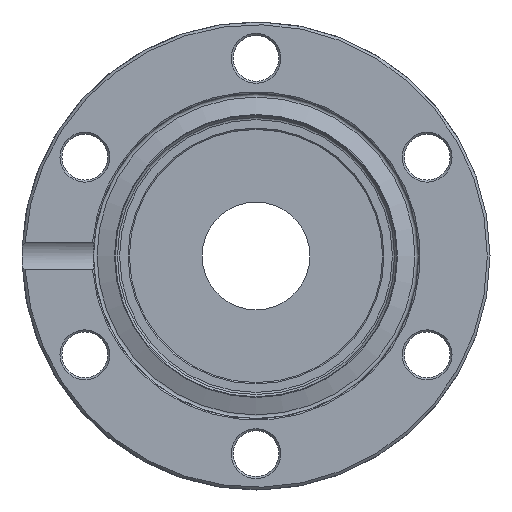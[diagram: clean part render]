
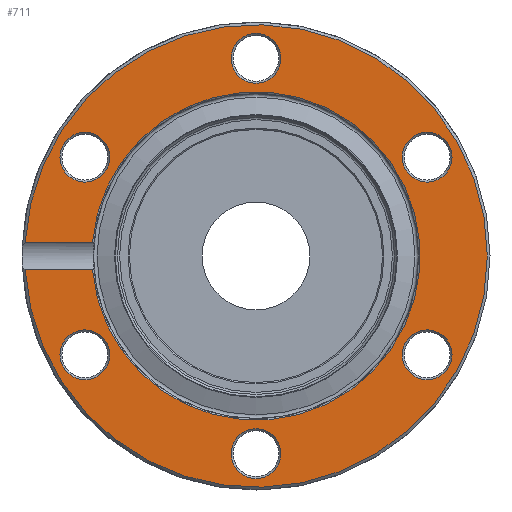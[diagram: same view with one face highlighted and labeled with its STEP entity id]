
A CAD part, left-side view. The second image highlights one B-rep face of the part: STEP entity #711.
In plain terms, the highlighted planar face has unit normal (-1, 0, 0).
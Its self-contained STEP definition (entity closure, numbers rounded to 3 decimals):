
#450=CARTESIAN_POINT('',(0.,24.29,-2.04));
#451=VERTEX_POINT('',#450);
#461=CARTESIAN_POINT('',(0.,24.29,2.04));
#462=VERTEX_POINT('',#461);
#463=CARTESIAN_POINT('',(0.,0.,0.0));
#464=DIRECTION('',(-1.0,0.0,0.0));
#465=DIRECTION('',(0.0,-1.0,0.0));
#466=AXIS2_PLACEMENT_3D('',#463,#464,#465);
#467=CIRCLE('',#466,24.375);
#468=EDGE_CURVE('',#451,#462,#467,.T.);
#528=CARTESIAN_POINT('',(0.,34.289,-2.04));
#529=VERTEX_POINT('',#528);
#548=CARTESIAN_POINT('',(0.,34.289,2.04));
#549=VERTEX_POINT('',#548);
#557=CARTESIAN_POINT('',(0.,0.,0.0));
#558=DIRECTION('',(1.0,0.0,0.0));
#559=DIRECTION('',(0.0,-1.0,0.0));
#560=AXIS2_PLACEMENT_3D('',#557,#558,#559);
#561=CIRCLE('',#560,34.35);
#562=EDGE_CURVE('',#549,#529,#561,.T.);
#615=CARTESIAN_POINT('',(0.,34.289,2.04));
#616=DIRECTION('',(0.0,-1.0,0.0));
#617=VECTOR('',#616,10.);
#618=LINE('',#615,#617);
#619=EDGE_CURVE('',#549,#462,#618,.T.);
#625=CARTESIAN_POINT('',(0.,24.29,-2.04));
#626=DIRECTION('',(0.0,1.0,0.0));
#627=VECTOR('',#626,10.);
#628=LINE('',#625,#627);
#629=EDGE_CURVE('',#451,#529,#628,.T.);
#634=CARTESIAN_POINT('',(0.0,29.462,0.0));
#635=DIRECTION('',(-1.0,0.0,0.0));
#636=DIRECTION('',(0.0,0.0,1.0));
#637=AXIS2_PLACEMENT_3D('',#634,#635,#636);
#638=PLANE('',#637);
#639=ORIENTED_EDGE('',*,*,#468,.F.);
#640=ORIENTED_EDGE('',*,*,#629,.T.);
#641=ORIENTED_EDGE('',*,*,#562,.F.);
#642=ORIENTED_EDGE('',*,*,#619,.T.);
#643=EDGE_LOOP('',(#639,#640,#641,#642));
#644=FACE_OUTER_BOUND('',#643,.T.);
#645=CARTESIAN_POINT('',(0.,-28.622,12.825));
#646=VERTEX_POINT('',#645);
#647=CARTESIAN_POINT('',(0.,-25.418,14.675));
#648=DIRECTION('',(-1.0,0.,0.));
#649=DIRECTION('',(0.,0.866,0.5));
#650=AXIS2_PLACEMENT_3D('',#647,#648,#649);
#651=CIRCLE('',#650,3.7);
#652=EDGE_CURVE('',#646,#646,#651,.T.);
#653=ORIENTED_EDGE('',*,*,#652,.F.);
#654=EDGE_LOOP('',(#653));
#655=FACE_BOUND('',#654,.T.);
#656=CARTESIAN_POINT('',(0.,25.418,18.375));
#657=VERTEX_POINT('',#656);
#658=CARTESIAN_POINT('',(0.,25.418,14.675));
#659=DIRECTION('',(-1.0,0.0,0.0));
#660=DIRECTION('',(0.0,0.0,-1.0));
#661=AXIS2_PLACEMENT_3D('',#658,#659,#660);
#662=CIRCLE('',#661,3.7);
#663=EDGE_CURVE('',#657,#657,#662,.T.);
#664=ORIENTED_EDGE('',*,*,#663,.F.);
#665=EDGE_LOOP('',(#664));
#666=FACE_BOUND('',#665,.T.);
#667=CARTESIAN_POINT('',(0.,-3.204,31.2));
#668=VERTEX_POINT('',#667);
#669=CARTESIAN_POINT('',(0.,0.,29.35));
#670=DIRECTION('',(-1.,0.,0.));
#671=DIRECTION('',(0.,0.866,-0.5));
#672=AXIS2_PLACEMENT_3D('',#669,#670,#671);
#673=CIRCLE('',#672,3.7);
#674=EDGE_CURVE('',#668,#668,#673,.T.);
#675=ORIENTED_EDGE('',*,*,#674,.F.);
#676=EDGE_LOOP('',(#675));
#677=FACE_BOUND('',#676,.T.);
#678=CARTESIAN_POINT('',(0.,28.622,-12.825));
#679=VERTEX_POINT('',#678);
#680=CARTESIAN_POINT('',(0.,25.418,-14.675));
#681=DIRECTION('',(-1.0,0.,0.));
#682=DIRECTION('',(0.,-0.866,-0.5));
#683=AXIS2_PLACEMENT_3D('',#680,#681,#682);
#684=CIRCLE('',#683,3.7);
#685=EDGE_CURVE('',#679,#679,#684,.T.);
#686=ORIENTED_EDGE('',*,*,#685,.F.);
#687=EDGE_LOOP('',(#686));
#688=FACE_BOUND('',#687,.T.);
#689=CARTESIAN_POINT('',(0.,-25.418,-18.375));
#690=VERTEX_POINT('',#689);
#691=CARTESIAN_POINT('',(0.,-25.418,-14.675));
#692=DIRECTION('',(-1.0,0.0,0.0));
#693=DIRECTION('',(0.0,0.0,1.0));
#694=AXIS2_PLACEMENT_3D('',#691,#692,#693);
#695=CIRCLE('',#694,3.7);
#696=EDGE_CURVE('',#690,#690,#695,.T.);
#697=ORIENTED_EDGE('',*,*,#696,.F.);
#698=EDGE_LOOP('',(#697));
#699=FACE_BOUND('',#698,.T.);
#700=CARTESIAN_POINT('',(0.,3.204,-31.2));
#701=VERTEX_POINT('',#700);
#702=CARTESIAN_POINT('',(0.,0.,-29.35));
#703=DIRECTION('',(-1.0,0.,0.));
#704=DIRECTION('',(0.,-0.866,0.5));
#705=AXIS2_PLACEMENT_3D('',#702,#703,#704);
#706=CIRCLE('',#705,3.7);
#707=EDGE_CURVE('',#701,#701,#706,.T.);
#708=ORIENTED_EDGE('',*,*,#707,.F.);
#709=EDGE_LOOP('',(#708));
#710=FACE_BOUND('',#709,.T.);
#711=ADVANCED_FACE('',(#644,#655,#666,#677,#688,#699,#710),#638,.T.);
